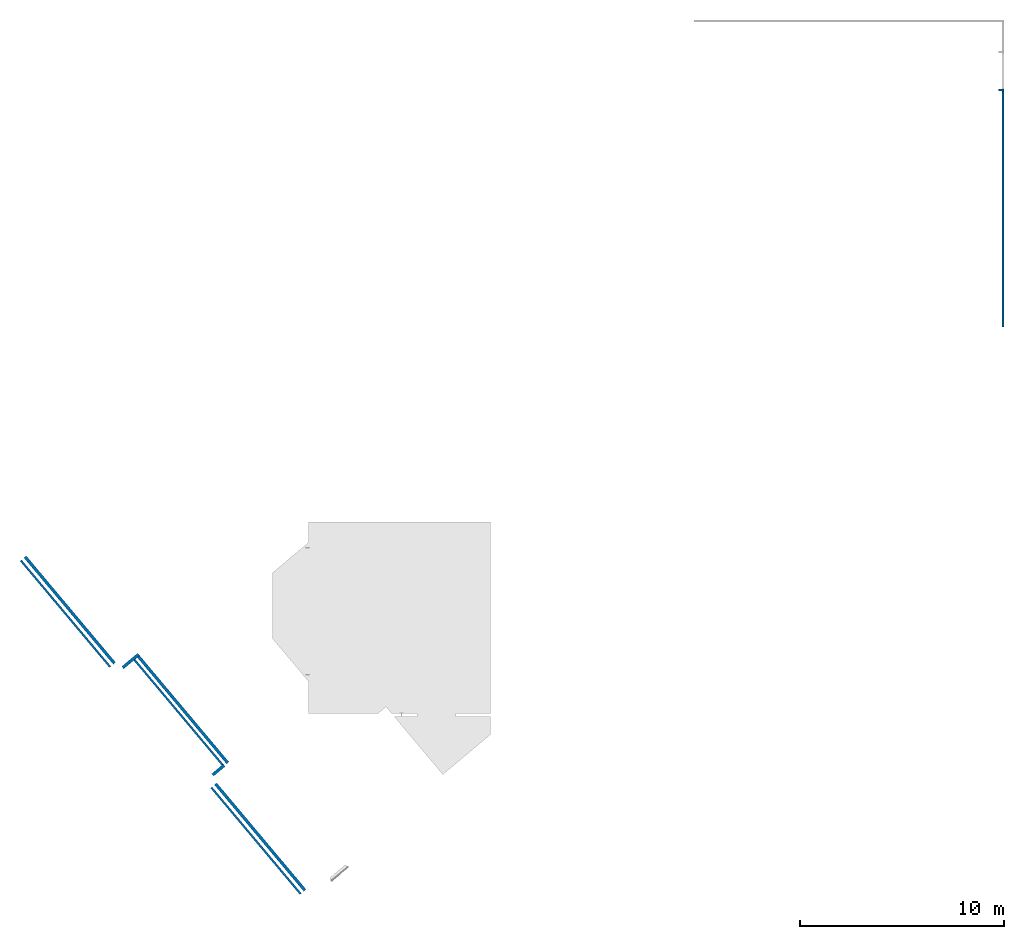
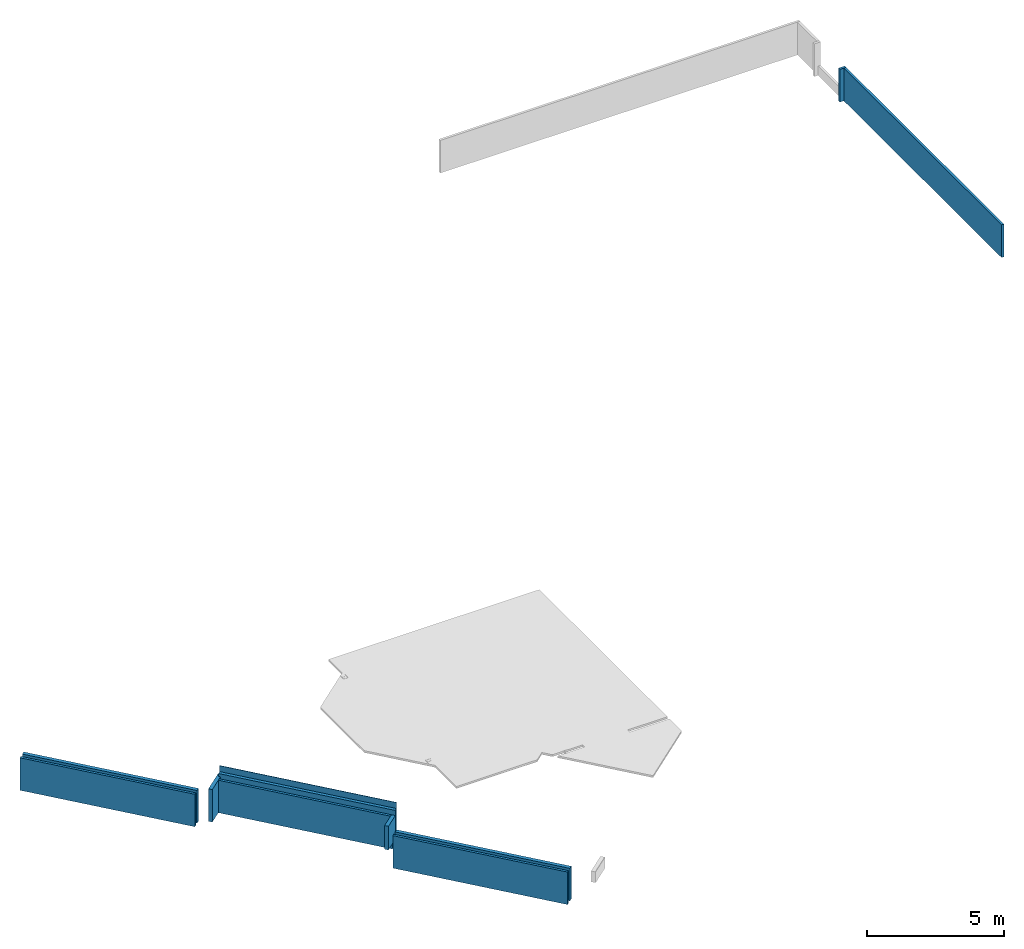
# One storey, part 1 of 2: 10 walls.
"""IFC2X3 building model written with IfcOpenShell, lengths in millimetres."""

from ifc_helpers import new_model, entity, si_unit, converted_unit, derived_unit, money_unit, direction, frame, origin_with_axes, place, context, subcontext, project, spatial, faceted_brep, material, type_object, element, save


model = new_model("IFC2X3")

# Units and contexts
model_context = context("Model", 3, precision=0.01, world=origin_with_axes(), true_north=direction((0.0, 1.0)))
plan_context = context("Plan", 3, precision=0.01, world=origin_with_axes(), true_north=direction((0.0, 1.0)))
body_context = subcontext(model_context, "Body", "Model", "MODEL_VIEW")
ifc_project = project(units=[si_unit("LENGTHUNIT", "METRE", prefix="MILLI"), si_unit("AREAUNIT", "SQUARE_METRE"), si_unit("VOLUMEUNIT", "CUBIC_METRE"), converted_unit("PLANEANGLEUNIT", "DEGREE", entity("IfcPlaneAngleMeasure", 0.0174532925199), si_unit("PLANEANGLEUNIT", "RADIAN"), dimensions=[0, 0, 0, 0, 0, 0, 0]), money_unit("EUR"), converted_unit("TIMEUNIT", "Year", entity("IfcTimeMeasure", 31556926.0), si_unit("TIMEUNIT", "SECOND"), dimensions=[0, 0, 1, 0, 0, 0, 0]), si_unit("MASSUNIT", "GRAM", prefix="KILO"), si_unit("THERMODYNAMICTEMPERATUREUNIT", "DEGREE_CELSIUS"), si_unit("LUMINOUSINTENSITYUNIT", "LUMEN"), si_unit("ENERGYUNIT", "JOULE", prefix="MEGA"), derived_unit("THERMALCONDUCTANCEUNIT", [(si_unit("POWERUNIT", "WATT"), 1), (si_unit("LENGTHUNIT", "METRE"), -1), (si_unit("THERMODYNAMICTEMPERATUREUNIT", "KELVIN"), -1)]), derived_unit("SPECIFICHEATCAPACITYUNIT", [(si_unit("ENERGYUNIT", "JOULE"), 1), (si_unit("MASSUNIT", "GRAM", prefix="KILO"), -1), (si_unit("THERMODYNAMICTEMPERATUREUNIT", "KELVIN"), -1)]), derived_unit("MASSDENSITYUNIT", [(si_unit("MASSUNIT", "GRAM", prefix="KILO"), 1), (si_unit("VOLUMEUNIT", "CUBIC_METRE"), -1)])], contexts=[model_context, plan_context])

# Site, building, storey
site_placement = place(None, origin_with_axes())
site = spatial("IfcSite", under=ifc_project, at=site_placement, Name="Fortuinstraat Woensdrecht", CompositionType="ELEMENT")
building_placement = place(site_placement, origin_with_axes())
building = spatial("IfcBuilding", under=site, at=building_placement, Name="IKC Fortuna", CompositionType="ELEMENT")
storey_placement = place(building_placement, frame((0.0, 0.0, -1085.0), z_axis=(0.0, 0.0, 1.0), x_axis=(1.0, 0.0, 0.0)))
storey = spatial("IfcBuildingStorey", under=building, at=storey_placement, Name="-1 fundering", CompositionType="ELEMENT", Elevation=-1085.0)

# Walls
ifc_material_1 = material(Name="Steen - Kalkzandsteen C")
wall_type_1 = type_object("IfcWallType", Name="Steen - Kalkzandsteen C 150", PredefinedType="NOTDEFINED")
wall_1_placement = place(storey_placement, frame((25487.2941316, -6828.69404612, 600.0), z_axis=(0.0, 0.0, 1.0), x_axis=(-0.642787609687, 0.766044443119, 0.0)))
element("IfcWall", 1, at=wall_1_placement, inside=storey, type_object=wall_type_1, material=ifc_material_1, Name="22_Wand_KZST", context=body_context, shape_type="Brep", body=[
    faceted_brep([(6800.0, -75.0, 0.0), (6800.0, -75.0, 1450.0), (0.0, -75.0, 1450.0), (0.0, -75.0, 0.0), (6800.0, 75.0, 0.0), (6800.0, 75.0, 1450.0), (0.0, 75.0, 1450.0), (0.0, 75.0, 0.0)], [[[0, 1, 2, 3]], [[4, 5, 1, 0]], [[2, 1, 5, 6]], [[2, 6, 7, 3]], [[7, 4, 0, 3]], [[6, 5, 4, 7]]]),
])
wall_2_placement = place(storey_placement, frame((16440.0585252, 3953.38149078, 600.0), z_axis=(0.0, 0.0, 1.0), x_axis=(-0.642787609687, 0.766044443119, 0.0)))
element("IfcWall", 2, at=wall_2_placement, inside=storey, type_object=wall_type_1, material=ifc_material_1, Name="22_Wand_KZST", context=body_context, shape_type="Brep", body=[
    faceted_brep([(7225.0, 75.0, 1450.0), (425.0, 75.0, 1450.0), (425.0, -75.0, 1450.0), (7225.0, -75.0, 1450.0), (425.0, 75.0, 0.0), (7225.0, 75.0, 0.0), (425.0, -75.0, 0.0), (7225.0, -75.0, 0.0)], [[[0, 1, 2, 3]], [[4, 1, 0, 5]], [[6, 2, 1, 4]], [[3, 2, 6, 7]], [[3, 7, 5, 0]], [[7, 6, 4, 5]]]),
])
wall_3_placement = place(storey_placement, frame((21501.9575905, -741.220954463, 995.0), z_axis=(0.0, 0.0, 1.0), x_axis=(-0.766044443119, -0.642787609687, 0.0)))
element("IfcWall", 3, at=wall_3_placement, inside=storey, type_object=wall_type_1, material=ifc_material_1, Name="22_Wand_KZST", context=body_context, shape_type="Brep", body=[
    faceted_brep([(-50.0, 75.0, 1055.0), (-50.0, -75.0, 1055.0), (685.007416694, -75.0, 1055.0), (685.007416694, 75.0, 1055.0), (-50.0, 75.0, 0.0), (-50.0, -75.0, 0.0), (685.007416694, -75.0, 0.0), (685.007416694, 75.0, 0.0)], [[[0, 1, 2, 3]], [[4, 5, 1, 0]], [[1, 5, 6, 2]], [[7, 3, 2, 6]], [[4, 0, 3, 7]], [[5, 4, 7, 6]]]),
])
wall_4_placement = place(storey_placement, frame((16440.0585252, 3953.38149078, 600.0), z_axis=(0.0, 0.0, 1.0), x_axis=(0.766044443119, 0.642787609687, 0.0)))
element("IfcWall", 4, at=wall_4_placement, inside=storey, type_object=wall_type_1, material=ifc_material_1, Name="22_Wand_KZST", context=body_context, shape_type="Brep", body=[
    faceted_brep([(1190.0073609, 75.0, 1450.0), (174.999949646, 75.0, 1450.0), (174.999949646, -75.0, 1450.0), (1190.0073609, -75.0, 1450.0), (174.999949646, 75.0, 0.0), (1190.0073609, 75.0, 0.0), (174.999949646, -75.0, 0.0), (1190.0073609, -75.0, 0.0)], [[[0, 1, 2, 3]], [[4, 1, 0, 5]], [[6, 2, 1, 4]], [[3, 2, 6, 7]], [[5, 0, 3, 7]], [[7, 6, 4, 5]]]),
])
wall_5_placement = place(storey_placement, frame((21713.3684963, -596.461093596, 995.0), z_axis=(0.0, 0.0, 1.0), x_axis=(-0.642787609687, 0.766044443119, 0.0)))
element("IfcWall", 5, at=wall_5_placement, inside=storey, type_object=wall_type_1, material=ifc_material_1, Name="22_Wand_KZST", context=body_context, shape_type="Brep", body=[
    faceted_brep([(6874.99994025, -75.0, 1450.0), (6874.99994025, -54.9925256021, 1450.0), (3.13158565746e-06, -54.9926527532, 1450.0), (0.0, -75.0, 1450.0), (6874.99994025, 75.0, 1185.0), (6874.99994025, -54.9925256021, 1185.0), (6874.99994025, -75.0, 1055.0), (6874.99994025, 75.0, 1055.0), (3.13158565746e-06, -54.9926527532, 1185.0), (3.47248452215e-06, 75.0, 1185.0), (0.0, 75.0, 0.0), (0.0, -75.0, 0.0), (6799.99994025, -75.0, 0.0), (6799.99994025, -75.0, 1055.0), (6799.99994025, 75.0, 1055.0), (6799.99994025, 75.0, 0.0)], [[[0, 1, 2, 3]], [[4, 5, 1, 0, 6, 7]], [[5, 8, 2, 1]], [[2, 8, 9, 10, 11, 3]], [[11, 12, 13, 6, 0, 3]], [[4, 9, 8, 5]], [[14, 7, 6, 13]], [[10, 9, 4, 7, 14, 15]], [[11, 10, 15, 12]], [[15, 14, 13, 12]]]),
])
wall_type_2 = type_object("IfcWallType", Name="Steen - Kalkzandsteen C 100", PredefinedType="NOTDEFINED")
wall_6_placement = place(storey_placement, frame((15956.2115307, 4102.18375408, 600.0), z_axis=(0.0, 0.0, 1.0), x_axis=(-0.642787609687, 0.766044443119, 0.0)))
element("IfcWall", 6, at=wall_6_placement, inside=storey, type_object=wall_type_2, material=ifc_material_1, Name="22_Wand_KZST", context=body_context, shape_type="Brep", body=[
    faceted_brep([(0.0, -50.0, 0.0), (6800.0, -50.0, 0.0), (6800.0, -50.0, 1450.0), (0.0, -50.0, 1450.0), (0.0, 50.0, 0.0), (6800.0, 50.0, 0.0), (6800.0, 50.0, 1450.0), (0.0, 50.0, 1450.0)], [[[0, 1, 2, 3]], [[4, 5, 1, 0]], [[5, 6, 2, 1]], [[3, 2, 6, 7]], [[3, 7, 4, 0]], [[7, 6, 5, 4]]]),
])
wall_7_placement = place(storey_placement, frame((21501.9575905, -741.220954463, 600.0), z_axis=(0.0, 0.0, 1.0), x_axis=(-0.642787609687, 0.766044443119, 0.0)))
element("IfcWall", 7, at=wall_7_placement, inside=storey, type_object=wall_type_2, material=ifc_material_1, Name="22_Wand_KZST", context=body_context, shape_type="Brep", body=[
    faceted_brep([(6775.00011644, -50.0, 0.0), (6775.00011644, -50.0, 1450.0), (75.0, -50.0, 1450.0), (75.0, -50.0, 395.0), (0.0, -50.0, 395.0), (0.0, -50.0, 0.0), (6775.00011644, 50.0, 0.0), (6775.00011644, 50.0, 1450.0), (75.0, 50.0, 1450.0), (75.0, 50.0, 395.0), (0.0, 50.0, 395.0), (0.0, 50.0, 0.0)], [[[0, 1, 2, 3, 4, 5]], [[6, 7, 1, 0]], [[1, 7, 8, 2]], [[8, 9, 3, 2]], [[3, 9, 10, 4]], [[11, 5, 4, 10]], [[11, 6, 0, 5]], [[11, 10, 9, 8, 7, 6]]]),
])
wall_8_placement = place(storey_placement, frame((20905.6761253, -1796.35845794, 600.0), z_axis=(0.0, 0.0, 1.0), x_axis=(0.642787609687, -0.766044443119, 0.0)))
element("IfcWall", 8, at=wall_8_placement, inside=storey, type_object=wall_type_2, material=ifc_material_1, Name="22_Wand_KZST", context=body_context, shape_type="Brep", body=[
    faceted_brep([(0.0, 50.0, 0.0), (6800.0, 50.0, 0.0), (6800.0, -50.0, 0.0), (0.0, -50.0, 0.0), (0.0, 50.0, 1450.0), (6800.0, 50.0, 1450.0), (6800.0, -50.0, 1450.0), (0.0, -50.0, 1450.0)], [[[0, 1, 2, 3]], [[4, 5, 1, 0]], [[2, 1, 5, 6]], [[3, 2, 6, 7]], [[4, 0, 3, 7]], [[7, 6, 5, 4]]]),
])
ifc_material_2 = material(Name="Steen - Baksteen Accent")
wall_type_3 = type_object("IfcWallType", Name="Steen - Baksteen Accent 100", PredefinedType="NOTDEFINED")
wall_9_placement = place(storey_placement, frame((59593.4270571, 20836.3041182, 600.0), z_axis=(0.0, 0.0, 1.0), x_axis=(0.0, 1.0, 0.0)))
element("IfcWall", 9, at=wall_9_placement, inside=storey, type_object=wall_type_3, material=ifc_material_2, Name="21_Wand_Kantplank", context=body_context, shape_type="Brep", body=[
    faceted_brep([(-100.0, 0.0, 1460.0), (-100.000152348, -5.64001133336, 1459.94022575), (-100.003744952, -99.9962550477, 1459.94022575), (-100.0, 0.0, 1459.94022575), (11439.0085474, -100.0, 1459.94022575), (-50.0027010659, 0.0, 1459.94022575), (-50.0027010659, -49.9952111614, 1459.94022575), (11439.0085474, -49.9952111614, 1459.94022575), (-100.0, -100.0, 1460.0), (-50.0027010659, 0.0, 1458.94022575), (11439.0085474, 0.0, 1460.0), (11439.0085474, 0.0, 0.0), (0.0, 0.0, 0.0), (0.0, 0.0, 1.22390233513), (-100.0, 0.0, 1.22390233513), (-100.0, 0.0, 1458.94022575), (11439.0085474, -100.0, 1460.0), (-50.0027010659, -49.9952111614, 1458.94022575), (11439.0085474, -49.9952111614, 1458.94022575), (11439.0085474, -99.9952111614, 1458.94022575), (11439.0085474, -100.0, 0.0), (0.0, -100.0, 0.0), (0.0, -100.0, 1.22390233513), (-100.0, -100.0, 1.22390233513), (-100.0, -0.072648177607, 1458.94022575), (-100.002701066, -99.9952111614, 1458.94022575)], [[[0, 1, 2]], [[0, 3, 1]], [[4, 2, 1, 3, 5, 6, 7]], [[8, 0, 2]], [[9, 5, 3, 0, 10, 11, 12, 13, 14, 15]], [[16, 8, 2, 4]], [[9, 17, 6, 5]], [[7, 6, 17, 18]], [[4, 7, 18, 19, 20, 11, 10, 16]], [[10, 0, 8, 16]], [[20, 21, 12, 11]], [[12, 21, 22, 13]], [[13, 22, 23, 14]], [[23, 24, 15, 14]], [[18, 17, 9, 15, 24, 25, 19]], [[21, 20, 19, 25, 23, 22]], [[23, 25, 24]]]),
])
wall_10_placement = place(storey_placement, frame((59433.4270571, 32275.3126656, 600.0), z_axis=(0.0, 0.0, 1.0), x_axis=(1.0, 0.0, 0.0)))
element("IfcWall", 10, at=wall_10_placement, inside=storey, type_object=wall_type_3, material=ifc_material_2, Name="21_Wand_Kantplank", context=body_context, shape_type="Brep", body=[
    faceted_brep([(259.99999994, 100.0, 1460.0), (259.99999994, 0.0, 1460.0), (259.99999994, 0.0, 1459.94022575), (259.99999994, 100.0, 1459.94022575), (0.0, 100.0, 1460.0), (0.0, 0.0, 1460.0), (259.995211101, 0.0, 1458.94022575), (209.995211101, 0.0, 1458.94022575), (209.995211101, 0.0, 1459.94022575), (0.0, 0.0, 0.0), (259.99999994, 0.0, 0.0), (209.995211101, 100.0, 1459.94022575), (209.995211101, 100.0, 1458.94022575), (259.995211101, 100.0, 1458.94022575), (259.99999994, 100.0, 0.0), (0.0, 100.0, 0.0)], [[[0, 1, 2, 3]], [[0, 4, 5, 1]], [[6, 7, 8, 2, 1, 5, 9, 10]], [[2, 8, 11, 3]], [[3, 11, 12, 13, 14, 15, 4, 0]], [[4, 15, 9, 5]], [[7, 6, 13, 12]], [[8, 7, 12, 11]], [[10, 9, 15, 14]], [[10, 14, 13, 6]]]),
])

save(model, "model.ifc")
